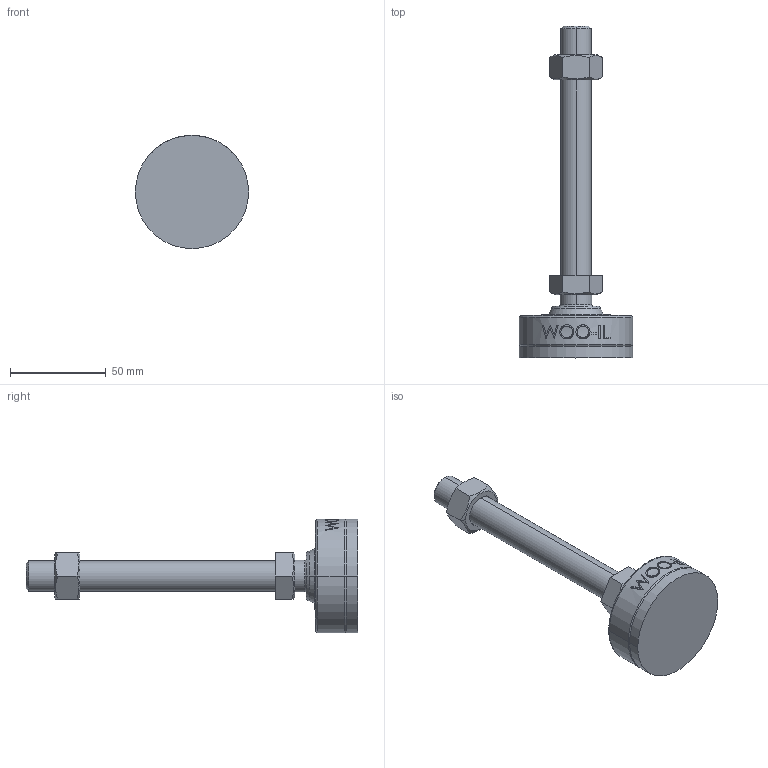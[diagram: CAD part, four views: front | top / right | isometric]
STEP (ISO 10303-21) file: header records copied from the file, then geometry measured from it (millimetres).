
FILE_DESCRIPTION (( 'STEP AP214' ), '1' );
FILE_NAME ('MFNR59-M16-130.step', '2021-02-22T09:06:46', ( '' ), ( '' ), 'SwSTEP 2.0', 'SolidWorks 2019', '' );
FILE_SCHEMA (( 'AUTOMOTIVE_DESIGN' ));
Length unit declared in the file: millimetre
Products named in the file (2): MFNR59-M16-130
Bounding box: 59 x 173 x 59 mm (x, y, z)
Volume: 99444.1 mm3; surface area: 20371.6 mm2
Topology: 2 solids, 2 shells, 105 faces, 245 edges, 156 vertices
Faces by surface type: plane 47, cone 18, cylinder 18, bspline 16, torus 4, sphere 2
Entity records: 4515 total; most frequent: CARTESIAN_POINT 2178, ORIENTED_EDGE 490, DIRECTION 437, EDGE_CURVE 245, AXIS2_PLACEMENT_3D 167, VERTEX_POINT 156, EDGE_LOOP 119, ADVANCED_FACE 105
